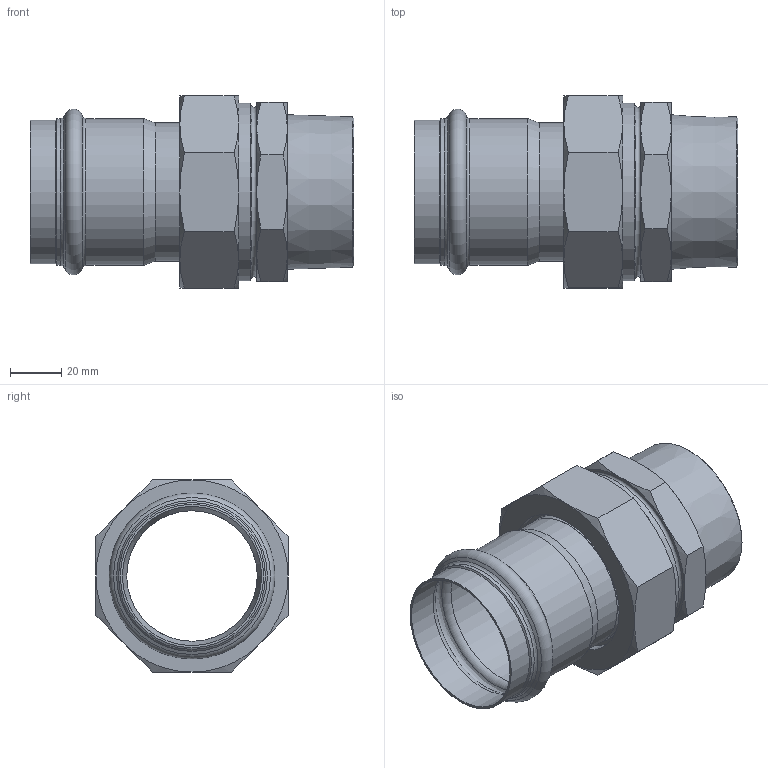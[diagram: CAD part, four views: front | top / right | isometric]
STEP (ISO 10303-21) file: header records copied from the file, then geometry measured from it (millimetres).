
FILE_DESCRIPTION((''),'2;1');
FILE_NAME('G:\Nirosan-Schmiedefeld\Technics\CAD\Bauteile VA\054\69333gmva542(2).stp','2011-05-17T10:19:52',('herberg'),(''),'Autodesk Inventor 2009','Autodesk Inventor 2009','');
FILE_SCHEMA(('AUTOMOTIVE_DESIGN { 1 0 10303 214 1 1 1 1 }'));
Length unit declared in the file: millimetre
Products named in the file (7): 69333gmva542(2); 69359m54238(2); HM_6924354(1); R54238(1); FD_6555_EPDM(0); AM54238(2); 69376G2382(1)
Assembly tree (6 placements, depth 3):
  69333gmva542(2)
    69359m54238(2)
      HM_6924354(1)
      R54238(1)
      FD_6555_EPDM(0)
      AM54238(2)
    69376G2382(1)
Bounding box: 126.5 x 75 x 75 mm (x, y, z)
Volume: 119845.4 mm3; surface area: 69520.8 mm2
Topology: 5 solids, 5 shells, 101 faces, 205 edges, 118 vertices
Faces by surface type: cone 45, plane 29, cylinder 13, bspline 10, torus 4
Full cylindrical faces by diameter (mm): 51 x2, 54 x2, 54.35 x2, 55 x1, 55.95 x1, 57.35 x2, 65 x2, 69.398 x1
Entity records: 2801 total; most frequent: CARTESIAN_POINT 820, DIRECTION 390, ORIENTED_EDGE 326, AXIS2_PLACEMENT_3D 187, EDGE_CURVE 163, EDGE_LOOP 154, VERTEX_POINT 115, FACE_OUTER_BOUND 101
